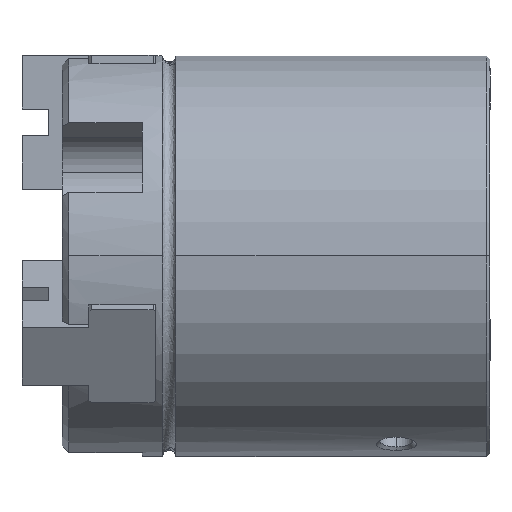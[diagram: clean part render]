
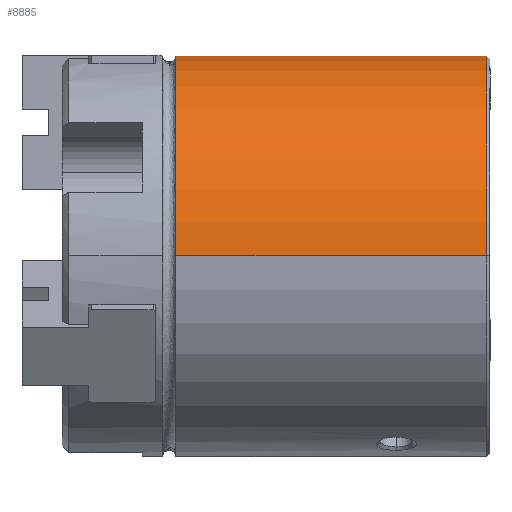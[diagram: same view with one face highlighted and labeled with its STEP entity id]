
A CAD part, top view. The second image highlights one B-rep face of the part: STEP entity #8885.
In plain terms, the highlighted cylindrical face has radius 15 mm (diameter 30 mm), a partial arc.
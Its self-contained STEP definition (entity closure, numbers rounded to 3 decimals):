
#49 = ORIENTED_EDGE ( 'NONE', *, *, #1091, .T. ) ;
#259 = DIRECTION ( 'NONE',  ( -1., 0., 0. ) ) ;
#845 = VERTEX_POINT ( 'NONE', #3294 ) ;
#1091 = EDGE_CURVE ( 'NONE', #10292, #1657, #7037, .T. ) ;
#1657 = VERTEX_POINT ( 'NONE', #6855 ) ;
#1818 = ORIENTED_EDGE ( 'NONE', *, *, #3305, .F. ) ;
#2325 = EDGE_LOOP ( 'NONE', ( #1818, #3332, #49, #10125 ) ) ;
#2703 = DIRECTION ( 'NONE',  ( -1., 0., 0. ) ) ;
#2837 = DIRECTION ( 'NONE',  ( 0., 0., 1. ) ) ;
#2968 = CARTESIAN_POINT ( 'NONE',  ( 31.75, 0., 0. ) ) ;
#3042 = LINE ( 'NONE', #4232, #9323 ) ;
#3080 = DIRECTION ( 'NONE',  ( -1., 0., 0. ) ) ;
#3294 = CARTESIAN_POINT ( 'NONE',  ( 8.5, 0., 15. ) ) ;
#3305 = EDGE_CURVE ( 'NONE', #3698, #845, #3042, .T. ) ;
#3332 = ORIENTED_EDGE ( 'NONE', *, *, #7575, .T. ) ;
#3698 = VERTEX_POINT ( 'NONE', #8004 ) ;
#4232 = CARTESIAN_POINT ( 'NONE',  ( 32., 0., 15. ) ) ;
#4431 = FACE_OUTER_BOUND ( 'NONE', #2325, .T. ) ;
#4717 = CIRCLE ( 'NONE', #6221, 15. ) ;
#4966 = EDGE_CURVE ( 'NONE', #1657, #845, #4717, .T. ) ;
#5633 = VECTOR ( 'NONE', #3080, 1000. ) ;
#5948 = CARTESIAN_POINT ( 'NONE',  ( 32., 0., 0. ) ) ;
#6221 = AXIS2_PLACEMENT_3D ( 'NONE', #6893, #7711, #2837 ) ;
#6279 = AXIS2_PLACEMENT_3D ( 'NONE', #2968, #7830, #10318 ) ;
#6471 = CARTESIAN_POINT ( 'NONE',  ( 31.75, 13.609, -6.309 ) ) ;
#6615 = CYLINDRICAL_SURFACE ( 'NONE', #10431, 15. ) ;
#6855 = CARTESIAN_POINT ( 'NONE',  ( 8.5, 13.609, -6.309 ) ) ;
#6893 = CARTESIAN_POINT ( 'NONE',  ( 8.5, 0., 0. ) ) ;
#7037 = LINE ( 'NONE', #7964, #5633 ) ;
#7476 = CIRCLE ( 'NONE', #6279, 15. ) ;
#7575 = EDGE_CURVE ( 'NONE', #3698, #10292, #7476, .T. ) ;
#7711 = DIRECTION ( 'NONE',  ( 1., 0., 0. ) ) ;
#7830 = DIRECTION ( 'NONE',  ( -1., 0., 0. ) ) ;
#7964 = CARTESIAN_POINT ( 'NONE',  ( 32., 13.609, -6.309 ) ) ;
#8004 = CARTESIAN_POINT ( 'NONE',  ( 31.75, 0., 15. ) ) ;
#8885 = ADVANCED_FACE ( 'NONE', ( #4431 ), #6615, .T. ) ;
#9323 = VECTOR ( 'NONE', #259, 1000. ) ;
#10001 = DIRECTION ( 'NONE',  ( 0., 0., 1. ) ) ;
#10125 = ORIENTED_EDGE ( 'NONE', *, *, #4966, .T. ) ;
#10292 = VERTEX_POINT ( 'NONE', #6471 ) ;
#10318 = DIRECTION ( 'NONE',  ( 0., 0., 1. ) ) ;
#10431 = AXIS2_PLACEMENT_3D ( 'NONE', #5948, #2703, #10001 ) ;
